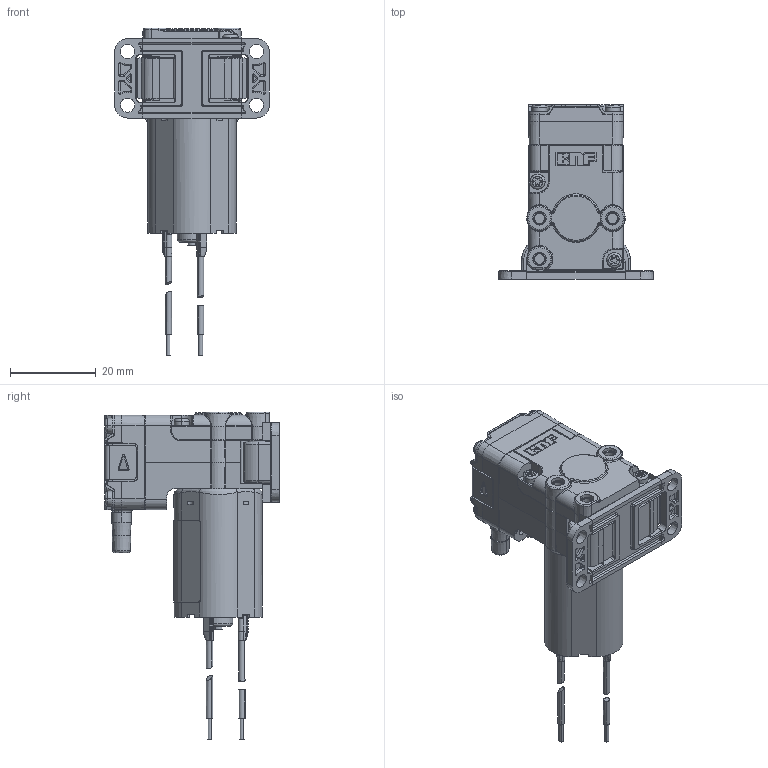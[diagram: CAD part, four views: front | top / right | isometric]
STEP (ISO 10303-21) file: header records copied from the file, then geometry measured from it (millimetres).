
FILE_DESCRIPTION((''),'2;1');
FILE_NAME('CAD1159344_ASM','2025-12-12T11:12:37',('UHermann'),('KNF Flodos AG, 6210 Sursee, Switzerland'),'CREO PARAMETRIC BY PTC INC, 2024401','CREO PARAMETRIC BY PTC INC, 2024401','');
FILE_SCHEMA(('AP242_MANAGED_MODEL_BASED_3D_ENGINEERING_MIM_LF { 1 0 10303 442 1 1 4 }'));
Products named in the file (5): BODY_1_1_2; HEAD_1_1_2; CLIP_1_1_2; CAD1159335_ASM_1_1_ASM; CAD1159344_ASM
Assembly tree (4 placements, depth 3):
  CAD1159344_ASM
    CAD1159335_ASM_1_1_ASM
      BODY_1_1_2
      HEAD_1_1_2
      CLIP_1_1_2
Bounding box: 36 x 40.6 x 76.3 mm (x, y, z)
Volume: 25242.9 mm3; surface area: 11701.3 mm2
Topology: 5 solids, 7 shells, 2003 faces, 5270 edges, 3301 vertices
Faces by surface type: cylinder 698, plane 689, bspline 198, torus 184, cone 149, sphere 65, extrusion 20
Entity records: 95188 total; most frequent: CARTESIAN_POINT 30586, ORIENTED_EDGE 10292, DIRECTION 10031, EDGE_CURVE 5164, AXIS2_PLACEMENT_3D 3739, VERTEX_POINT 3231, VECTOR 2553, LINE 2533
